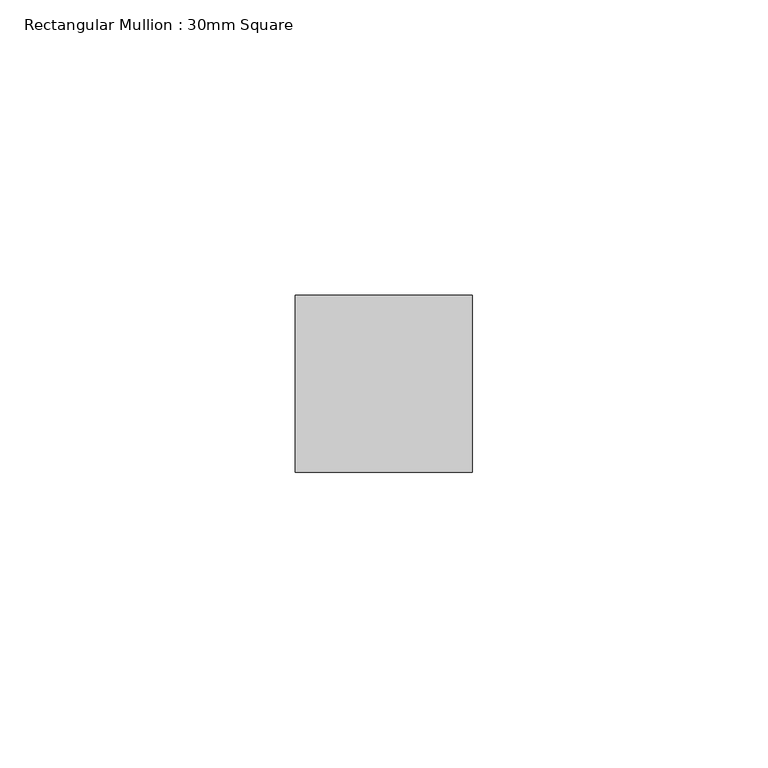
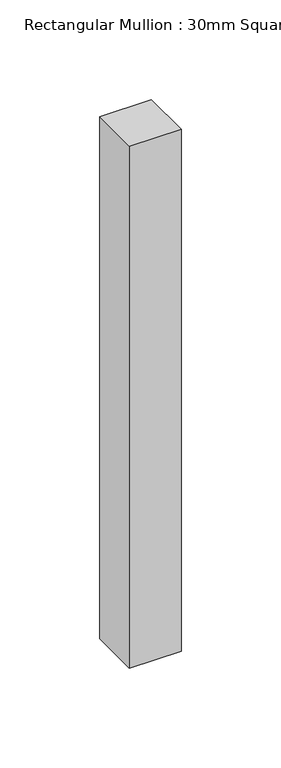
"""IFC4 building model written with IfcOpenShell, lengths in millimetres: member geometry, Rectangular Mullion : 30mm Square."""

from ifc_helpers import new_model, si_unit, frame, origin, place, context, project, spatial, polyline, outline, extrude, source, transform, mapped, element, save


def rectangular_mullion_30mm_square_0c05b7bd(model_context):
    return source(origin(), model_context, "Body", "SweptSolid", [
        extrude(outline(polyline([(0.0, 15.0), (0.0, -15.0), (-30.0, -15.0), (-30.0, 15.0), (0.0, 15.0)])), frame((0.0, 0.0, -320.0), z_axis=(0.0, 0.0, 1.0), x_axis=(1.0, 0.0, 0.0)), (0.0, 0.0, 1.0), 320.0),
    ])


if __name__ == "__main__":
    model = new_model("IFC4")
    model_context = context("Model", 3, world=origin())
    ifc_project = project(units=[si_unit("LENGTHUNIT", "METRE", prefix="MILLI")], contexts=[model_context])
    site = spatial("IfcSite", under=ifc_project)
    building = spatial("IfcBuilding", under=site)
    placement = place(None, origin())
    rectangular_mullion_30mm_square_shape = rectangular_mullion_30mm_square_0c05b7bd(model_context)
    element("IfcMember", 1, ObjectType="Rectangular Mullion : 30mm Square", at=placement, inside=building, context=model_context, shape_type="MappedRepresentation", body=[
        mapped(rectangular_mullion_30mm_square_shape, transform((0.0, 0.0, 0.0), x_axis=(1.0, 0.0, 0.0), y_axis=(0.0, 1.0, 0.0), z_axis=(0.0, 0.0, 1.0))),
    ])
    save(model, "model.ifc")
